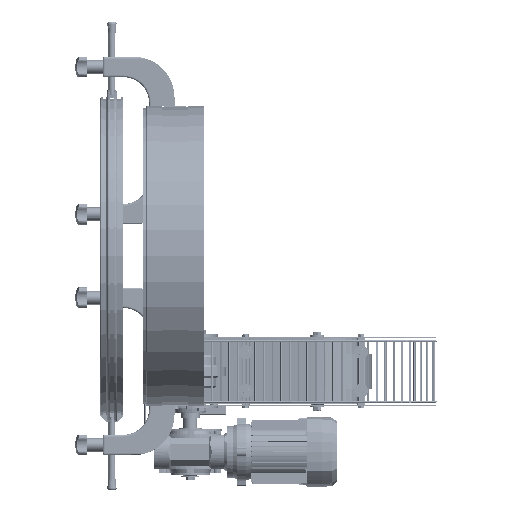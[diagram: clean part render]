
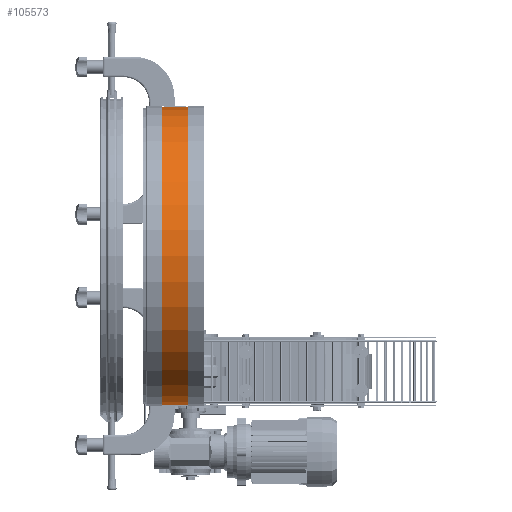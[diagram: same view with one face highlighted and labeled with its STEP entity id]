
A CAD part, left-side view. The second image highlights one B-rep face of the part: STEP entity #105573.
In plain terms, the highlighted cylindrical face has radius 257.7 mm (diameter 515.4 mm), a partial arc.
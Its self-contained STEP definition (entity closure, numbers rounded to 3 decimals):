
#11542 = CARTESIAN_POINT ( 'NONE',  ( 88.5, 58., -2. ) ) ;
#14318 = EDGE_CURVE ( 'NONE', #148293, #108068, #97747, .T. ) ;
#14635 = CYLINDRICAL_SURFACE ( 'NONE', #53245, 257.7 ) ;
#24069 = CARTESIAN_POINT ( 'NONE',  ( 88.5, 0., 255.7 ) ) ;
#29349 = EDGE_CURVE ( 'NONE', #108068, #58774, #90732, .T. ) ;
#30662 = DIRECTION ( 'NONE',  ( 0., 0., -1. ) ) ;
#33867 = ORIENTED_EDGE ( 'NONE', *, *, #29349, .T. ) ;
#36612 = DIRECTION ( 'NONE',  ( 1., 0., 0. ) ) ;
#43242 = CARTESIAN_POINT ( 'NONE',  ( 88.5, 58., 255.7 ) ) ;
#50079 = AXIS2_PLACEMENT_3D ( 'NONE', #24069, #62605, #36612 ) ;
#50136 = CARTESIAN_POINT ( 'NONE',  ( 88.5, 0., 513.4 ) ) ;
#50948 = LINE ( 'NONE', #11542, #87156 ) ;
#53245 = AXIS2_PLACEMENT_3D ( 'NONE', #43242, #151378, #30662 ) ;
#58774 = VERTEX_POINT ( 'NONE', #50136 ) ;
#62605 = DIRECTION ( 'NONE',  ( 0., -1., 0. ) ) ;
#69192 = AXIS2_PLACEMENT_3D ( 'NONE', #174712, #133603, #146990 ) ;
#73409 = EDGE_CURVE ( 'NONE', #137191, #58774, #135681, .T. ) ;
#73526 = EDGE_CURVE ( 'NONE', #148293, #137191, #50948, .T. ) ;
#76042 = CARTESIAN_POINT ( 'NONE',  ( 88.5, 0., -2. ) ) ;
#84407 = ORIENTED_EDGE ( 'NONE', *, *, #14318, .T. ) ;
#87156 = VECTOR ( 'NONE', #89361, 1000. ) ;
#89361 = DIRECTION ( 'NONE',  ( 0., -1., 0. ) ) ;
#90732 = LINE ( 'NONE', #106792, #98586 ) ;
#96971 = ORIENTED_EDGE ( 'NONE', *, *, #73526, .F. ) ;
#97747 = CIRCLE ( 'NONE', #69192, 257.7 ) ;
#98586 = VECTOR ( 'NONE', #161295, 1000. ) ;
#105573 = ADVANCED_FACE ( 'NONE', ( #153113 ), #14635, .T. ) ;
#106792 = CARTESIAN_POINT ( 'NONE',  ( 88.5, 58., 513.4 ) ) ;
#108068 = VERTEX_POINT ( 'NONE', #121991 ) ;
#111153 = ORIENTED_EDGE ( 'NONE', *, *, #73409, .F. ) ;
#121991 = CARTESIAN_POINT ( 'NONE',  ( 88.5, 58., 513.4 ) ) ;
#133603 = DIRECTION ( 'NONE',  ( 0., -1., 0. ) ) ;
#135681 = CIRCLE ( 'NONE', #50079, 257.7 ) ;
#137191 = VERTEX_POINT ( 'NONE', #76042 ) ;
#146990 = DIRECTION ( 'NONE',  ( 1., 0., 0. ) ) ;
#148293 = VERTEX_POINT ( 'NONE', #174691 ) ;
#151378 = DIRECTION ( 'NONE',  ( 0., -1., 0. ) ) ;
#153113 = FACE_OUTER_BOUND ( 'NONE', #172329, .T. ) ;
#161295 = DIRECTION ( 'NONE',  ( 0., -1., 0. ) ) ;
#172329 = EDGE_LOOP ( 'NONE', ( #111153, #96971, #84407, #33867 ) ) ;
#174691 = CARTESIAN_POINT ( 'NONE',  ( 88.5, 58., -2. ) ) ;
#174712 = CARTESIAN_POINT ( 'NONE',  ( 88.5, 58., 255.7 ) ) ;
